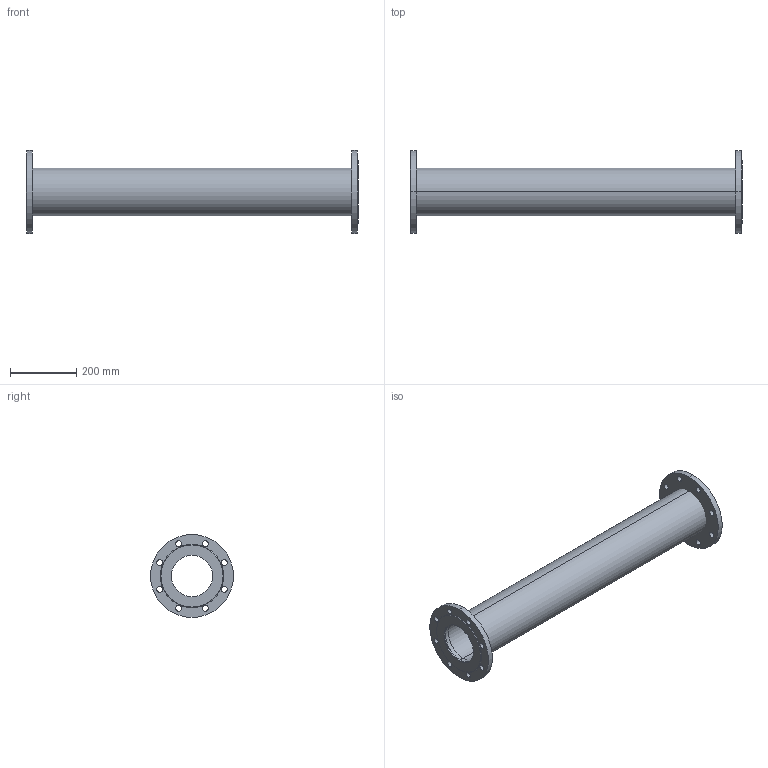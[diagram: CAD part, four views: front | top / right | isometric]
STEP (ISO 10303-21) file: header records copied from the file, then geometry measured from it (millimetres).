
FILE_DESCRIPTION(('STEP AP214'),'1');
FILE_NAME('U:/VDI-Daten/8500/8500_PN16_DN125_L1000.STP','2012-06-12T15:13:02',(' '),(' '),'Spatial InterOp 3D',' ',' ');
FILE_SCHEMA(('automotive_design'));
Length unit declared in the file: millimetre
Products named in the file (5): 3D-Objekt
Bounding box: 1000 x 250 x 250 mm (x, y, z)
Volume: 5209643.3 mm3; surface area: 1105184.5 mm2
Topology: 5 solids, 5 shells, 62 faces, 156 edges, 104 vertices
Faces by surface type: cylinder 48, plane 10, cone 4
Entity records: 2621 total; most frequent: DIRECTION 394, CARTESIAN_POINT 327, ORIENTED_EDGE 312, AXIS2_PLACEMENT_3D 171, EDGE_CURVE 156, EDGE_LOOP 104, VERTEX_POINT 104, CIRCLE 104
